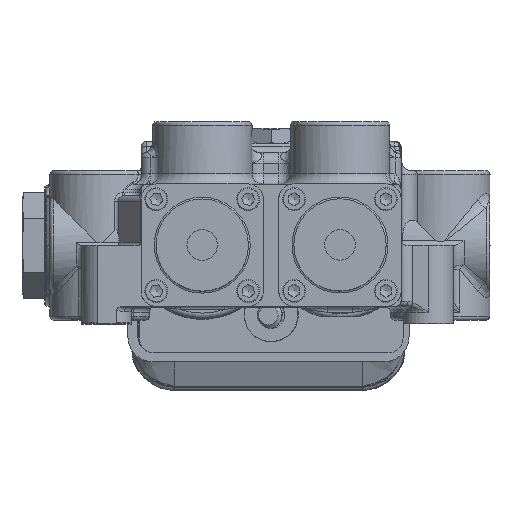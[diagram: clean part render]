
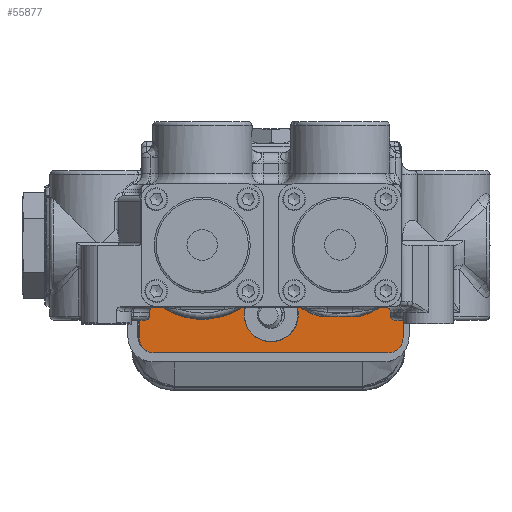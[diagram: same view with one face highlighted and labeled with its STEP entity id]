
A CAD part, top view. The second image highlights one B-rep face of the part: STEP entity #55877.
In plain terms, the highlighted planar face has unit normal (0, 0, 1).
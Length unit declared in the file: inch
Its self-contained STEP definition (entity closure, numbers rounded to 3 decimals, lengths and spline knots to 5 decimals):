
#14350=CARTESIAN_POINT('',(-3.031,-1.75,0.07));
#14351=VERTEX_POINT('',#14350);
#14358=CARTESIAN_POINT('',(-3.281,-1.5,0.07));
#14359=VERTEX_POINT('',#14358);
#14360=CARTESIAN_POINT('',(-3.031,-1.5,0.07));
#14361=DIRECTION('',(0.0,0.0,1.0));
#14362=DIRECTION('',(0.0,1.0,0.0));
#14363=AXIS2_PLACEMENT_3D('',#14360,#14361,#14362);
#14364=CIRCLE('',#14363,0.25);
#14365=EDGE_CURVE('',#14359,#14351,#14364,.T.);
#14391=CARTESIAN_POINT('',(0.781,-1.75,0.07));
#14392=VERTEX_POINT('',#14391);
#14399=CARTESIAN_POINT('',(-3.031,-1.75,0.07));
#14400=DIRECTION('',(1.0,0.0,0.0));
#14401=VECTOR('',#14400,3.812);
#14402=LINE('',#14399,#14401);
#14403=EDGE_CURVE('',#14351,#14392,#14402,.T.);
#14415=CARTESIAN_POINT('',(1.031,-1.5,0.07));
#14416=VERTEX_POINT('',#14415);
#14423=CARTESIAN_POINT('',(0.781,-1.5,0.07));
#14424=DIRECTION('',(0.0,0.0,1.0));
#14425=DIRECTION('',(-1.0,0.0,0.0));
#14426=AXIS2_PLACEMENT_3D('',#14423,#14424,#14425);
#14427=CIRCLE('',#14426,0.25);
#14428=EDGE_CURVE('',#14392,#14416,#14427,.T.);
#14448=CARTESIAN_POINT('',(1.031,-0.83158,0.07));
#14449=VERTEX_POINT('',#14448);
#14456=CARTESIAN_POINT('',(1.031,-1.5,0.07));
#14457=DIRECTION('',(0.0,1.0,0.0));
#14458=VECTOR('',#14457,0.66842);
#14459=LINE('',#14456,#14458);
#14460=EDGE_CURVE('',#14416,#14449,#14459,.T.);
#22990=CARTESIAN_POINT('',(-3.24775,-0.91,0.07));
#22991=VERTEX_POINT('',#22990);
#22992=CARTESIAN_POINT('',(-3.16,-0.99775,0.07));
#22993=VERTEX_POINT('',#22992);
#22994=CARTESIAN_POINT('',(-3.16,-0.91,0.07));
#22995=DIRECTION('',(0.0,0.0,1.0));
#22996=DIRECTION('',(0.0,1.0,0.0));
#22997=AXIS2_PLACEMENT_3D('',#22994,#22995,#22996);
#22998=CIRCLE('',#22997,0.08775);
#22999=EDGE_CURVE('',#22991,#22993,#22998,.T.);
#23024=CARTESIAN_POINT('',(0.91,-0.99775,0.07));
#23025=VERTEX_POINT('',#23024);
#23026=CARTESIAN_POINT('',(0.99775,-0.91,0.07));
#23027=VERTEX_POINT('',#23026);
#23028=CARTESIAN_POINT('',(0.91,-0.91,0.07));
#23029=DIRECTION('',(0.0,0.0,1.0));
#23030=DIRECTION('',(0.0,1.0,0.0));
#23031=AXIS2_PLACEMENT_3D('',#23028,#23029,#23030);
#23032=CIRCLE('',#23031,0.08775);
#23033=EDGE_CURVE('',#23025,#23027,#23032,.T.);
#23076=CARTESIAN_POINT('',(-3.24775,-0.25367,0.07));
#23077=VERTEX_POINT('',#23076);
#23084=CARTESIAN_POINT('',(-3.24775,-0.25367,0.07));
#23085=DIRECTION('',(0.0,-1.0,0.0));
#23086=VECTOR('',#23085,0.65633);
#23087=LINE('',#23084,#23086);
#23088=EDGE_CURVE('',#23077,#22991,#23087,.T.);
#23114=CARTESIAN_POINT('',(0.99775,-0.9025,0.07));
#23115=VERTEX_POINT('',#23114);
#23116=CARTESIAN_POINT('',(0.99775,-0.91,0.07));
#23117=DIRECTION('',(0.0,1.0,0.0));
#23118=VECTOR('',#23117,0.0075);
#23119=LINE('',#23116,#23118);
#23120=EDGE_CURVE('',#23027,#23115,#23119,.T.);
#23139=CARTESIAN_POINT('',(1.09,-0.9025,0.07));
#23140=DIRECTION('',(0.0,0.0,-1.0));
#23141=DIRECTION('',(-1.0,0.0,0.0));
#23142=AXIS2_PLACEMENT_3D('',#23139,#23140,#23141);
#23143=CIRCLE('',#23142,0.09225);
#23144=EDGE_CURVE('',#23115,#14449,#23143,.T.);
#23197=CARTESIAN_POINT('',(-1.54881,-0.99775,0.07));
#23198=VERTEX_POINT('',#23197);
#23199=CARTESIAN_POINT('',(-3.16,-0.99775,0.07));
#23200=DIRECTION('',(1.0,0.0,0.0));
#23201=VECTOR('',#23200,1.61119);
#23202=LINE('',#23199,#23201);
#23203=EDGE_CURVE('',#22993,#23198,#23202,.T.);
#23205=CARTESIAN_POINT('',(-0.70119,-0.99775,0.07));
#23206=VERTEX_POINT('',#23205);
#23213=CARTESIAN_POINT('',(-0.70119,-0.99775,0.07));
#23214=DIRECTION('',(1.0,0.0,0.0));
#23215=VECTOR('',#23214,1.61119);
#23216=LINE('',#23213,#23215);
#23217=EDGE_CURVE('',#23206,#23025,#23216,.T.);
#55619=CARTESIAN_POINT('',(-3.281,-0.31055,0.07));
#55620=VERTEX_POINT('',#55619);
#55621=CARTESIAN_POINT('',(-3.281,-0.31055,0.07));
#55622=DIRECTION('',(0.0,-1.0,0.0));
#55623=VECTOR('',#55622,1.18945);
#55624=LINE('',#55621,#55623);
#55625=EDGE_CURVE('',#55620,#14359,#55624,.T.);
#55643=CARTESIAN_POINT('',(-3.747,0.,0.07));
#55644=DIRECTION('',(0.,0.,-1.0));
#55645=DIRECTION('',(0.832,0.555,0.));
#55646=AXIS2_PLACEMENT_3D('',#55643,#55644,#55645);
#55647=CIRCLE('',#55646,0.56);
#55648=EDGE_CURVE('',#23077,#55620,#55647,.T.);
#55801=CARTESIAN_POINT('',(-1.5675,-1.125,0.07));
#55802=VERTEX_POINT('',#55801);
#55803=CARTESIAN_POINT('',(-1.125,-1.125,0.07));
#55804=DIRECTION('',(0.0,0.0,-1.0));
#55805=DIRECTION('',(1.0,0.0,0.0));
#55806=AXIS2_PLACEMENT_3D('',#55803,#55804,#55805);
#55807=CIRCLE('',#55806,0.4425);
#55808=EDGE_CURVE('',#55802,#23198,#55807,.T.);
#55810=CARTESIAN_POINT('',(-1.125,-1.125,0.07));
#55811=DIRECTION('',(0.0,0.0,-1.0));
#55812=DIRECTION('',(1.0,0.0,0.0));
#55813=AXIS2_PLACEMENT_3D('',#55810,#55811,#55812);
#55814=CIRCLE('',#55813,0.4425);
#55815=EDGE_CURVE('',#23206,#55802,#55814,.T.);
#55855=CARTESIAN_POINT('',(-1.125,-0.35756,0.07));
#55856=DIRECTION('',(0.0,0.0,-1.0));
#55857=DIRECTION('',(-1.0,0.0,0.0));
#55858=AXIS2_PLACEMENT_3D('',#55855,#55856,#55857);
#55859=PLANE('',#55858);
#55860=ORIENTED_EDGE('',*,*,#23217,.F.);
#55861=ORIENTED_EDGE('',*,*,#55815,.T.);
#55862=ORIENTED_EDGE('',*,*,#55808,.T.);
#55863=ORIENTED_EDGE('',*,*,#23203,.F.);
#55864=ORIENTED_EDGE('',*,*,#22999,.F.);
#55865=ORIENTED_EDGE('',*,*,#23088,.F.);
#55866=ORIENTED_EDGE('',*,*,#55648,.T.);
#55867=ORIENTED_EDGE('',*,*,#55625,.T.);
#55868=ORIENTED_EDGE('',*,*,#14365,.T.);
#55869=ORIENTED_EDGE('',*,*,#14403,.T.);
#55870=ORIENTED_EDGE('',*,*,#14428,.T.);
#55871=ORIENTED_EDGE('',*,*,#14460,.T.);
#55872=ORIENTED_EDGE('',*,*,#23144,.F.);
#55873=ORIENTED_EDGE('',*,*,#23120,.F.);
#55874=ORIENTED_EDGE('',*,*,#23033,.F.);
#55875=EDGE_LOOP('',(#55860,#55861,#55862,#55863,#55864,#55865,#55866,#55867,#55868,#55869,#55870,#55871,#55872,#55873,#55874));
#55876=FACE_OUTER_BOUND('',#55875,.T.);
#55877=ADVANCED_FACE('',(#55876),#55859,.F.);
